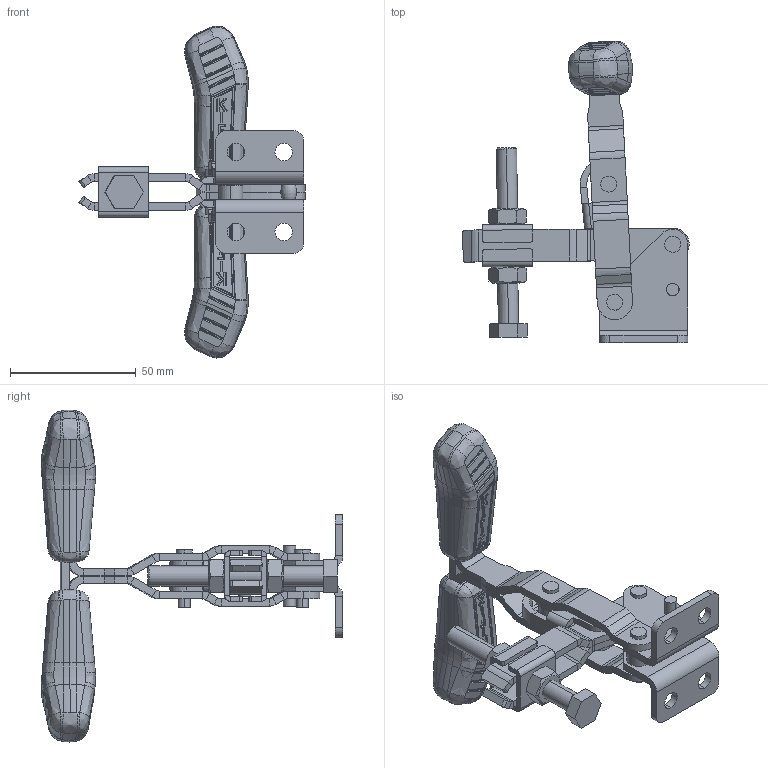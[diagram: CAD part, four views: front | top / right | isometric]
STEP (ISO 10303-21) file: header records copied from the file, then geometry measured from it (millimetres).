
FILE_DESCRIPTION (( 'STEP AP203' ), '1' );
FILE_NAME ('KF-017 DT.STEP', '2018-06-04T17:24:19', ( 'Ricardo' ), ( '' ), 'SwSTEP 2.0', 'SolidWorks 2018', '' );
FILE_SCHEMA (( 'CONFIG_CONTROL_DESIGN' ));
Length unit declared in the file: millimetre
Products named in the file (16): 06.50002; 04.20001; 02.12001_Direita; 14.10001; 02.12001_Esquerda; 11.50002; 03.13009_Direita; 03.13009_Esquerda; 12.50003; 06.50001; 01.10325; 05.20017; 07.60005; 01.10324; KF-017 DT; 04.10001
Assembly tree (22 placements, depth 2):
  KF-017 DT
    02.12001_Direita
    02.12001_Esquerda
    03.13009_Direita
    03.13009_Esquerda
    06.50001  x2
    05.20017  x2
    01.10324  x2
    04.10001
    06.50002  x2
    04.20001
    14.10001  x2
    11.50002  x2
    12.50003
    01.10325
    07.60005  x2
Bounding box: 89.94 x 119.89 x 131.96 mm (x, y, z)
Volume: 76595.8 mm3; surface area: 50870.6 mm2
Topology: 22 solids, 22 shells, 1739 faces, 4350 edges, 2684 vertices
Faces by surface type: bspline 538, cylinder 534, plane 523, sphere 100, cone 38, torus 6
Entity records: 37513 total; most frequent: CARTESIAN_POINT 14873, ORIENTED_EDGE 4832, DIRECTION 3633, EDGE_CURVE 2416, VERTEX_POINT 1495, AXIS2_PLACEMENT_3D 1335, EDGE_LOOP 1049, FACE_OUTER_BOUND 974
